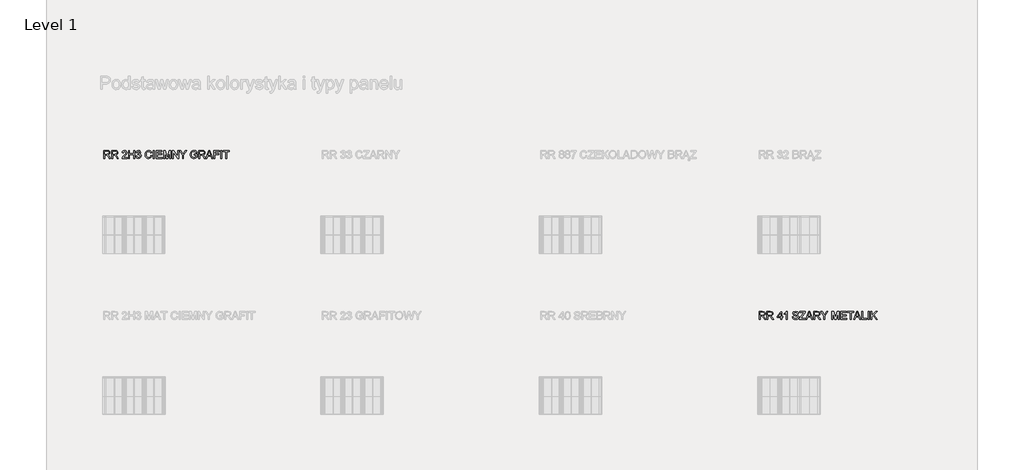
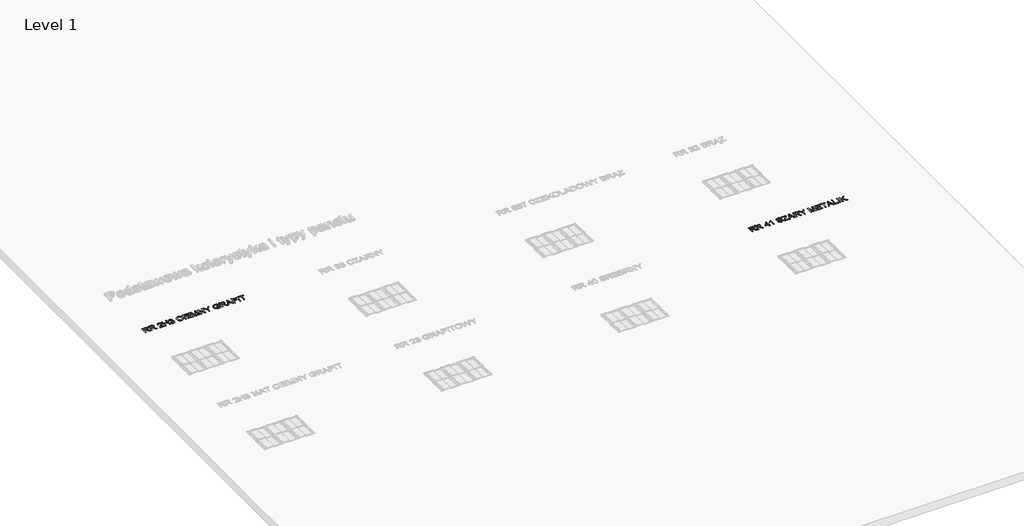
# One storey, part 7 of 10: 2 proxies.
"""IFC4 building model written with IfcOpenShell, lengths in millimetres."""

from ifc_helpers import new_model, si_unit, frame, origin, place, context, project, spatial, polyline, outline, extrude, element, save

model = new_model("IFC4")

# Units and contexts
model_context = context("Model", 3, world=origin())
ifc_project = project(units=[si_unit("LENGTHUNIT", "METRE", prefix="MILLI")], contexts=[model_context])

# Site, building, storey
site = spatial("IfcSite", under=ifc_project)
building = spatial("IfcBuilding", under=site)
storey = spatial("IfcBuildingStorey", under=building, Name="Level 1", Elevation=0.0)

# Proxies
placement = place(None, origin())
element("IfcBuildingElementProxy", 1, Name="150 Blue", ObjectType="150 Blue", at=placement, inside=storey, context=model_context, shape_type="SweptSolid", body=[
    extrude(outline(polyline([(-8736.4118342, 1464.3485888), (-8736.4118342, 1615.033054), (-8671.4806621, 1615.033054), (-8641.3327325, 1610.967958), (-8632.0529092, 1605.3393635), (-8624.8516192, 1596.583772), (-8620.2301016, 1585.7266546), (-8618.6895957, 1573.7934824), (-8621.2417771, 1558.9494439), (-8628.8983211, 1546.6437911), (-8641.8891541, 1537.6214852), (-8660.4442022, 1532.6274871), (-8649.7388361, 1524.5708714), (-8634.4717333, 1505.1834903), (-8609.3453931, 1464.3485888), (-8631.2343718, 1464.3485888), (-8650.8424821, 1495.5817702), (-8665.0059389, 1516.2567383), (-8674.9571469, 1526.0240053), (-8683.9150735, 1529.6108548), (-8694.8411687, 1530.2730423), (-8717.576276, 1530.2730423), (-8717.576276, 1464.3485888), (-8736.4118342, 1464.3485888)]), holes=[polyline([(-8717.576276, 1549.1086005), (-8675.4169994, 1549.1086005), (-8653.9142968, 1551.775745), (-8641.7006145, 1560.3106073), (-8637.5251539, 1573.0945066), (-8639.5163152, 1582.2823594), (-8645.4897991, 1589.6859846), (-8655.7675023, 1594.5696181), (-8670.6713217, 1596.1974959), (-8717.576276, 1596.1974959), (-8717.576276, 1549.1086005)])]), frame((0.0, 0.0, 600.0), z_axis=(0.0, 0.0, 1.0), x_axis=(1.0, 0.0, 0.0)), (0.0, 0.0, 1.0), 10.0),
    extrude(outline(polyline([(-8585.727369, 1464.3485888), (-8585.727369, 1615.033054), (-8520.7961968, 1615.033054), (-8490.6482673, 1610.967958), (-8481.368444, 1605.3393635), (-8474.1671539, 1596.583772), (-8469.5456364, 1585.7266546), (-8468.0051305, 1573.7934824), (-8470.5573119, 1558.9494439), (-8478.2138559, 1546.6437911), (-8491.2046888, 1537.6214852), (-8509.759737, 1532.6274871), (-8499.0543709, 1524.5708714), (-8483.7872681, 1505.1834903), (-8458.6609278, 1464.3485888), (-8480.5499066, 1464.3485888), (-8500.1580169, 1495.5817702), (-8514.3214737, 1516.2567383), (-8524.2726817, 1526.0240053), (-8533.2306083, 1529.6108548), (-8544.1567035, 1530.2730423), (-8566.8918108, 1530.2730423), (-8566.8918108, 1464.3485888), (-8585.727369, 1464.3485888)]), holes=[polyline([(-8566.8918108, 1549.1086005), (-8524.7325342, 1549.1086005), (-8503.2298316, 1551.775745), (-8491.0161493, 1560.3106073), (-8486.8406887, 1573.0945066), (-8488.83185, 1582.2823594), (-8494.8053339, 1589.6859846), (-8505.0830371, 1594.5696181), (-8519.9868564, 1596.1974959), (-8566.8918108, 1596.1974959), (-8566.8918108, 1549.1086005)])]), frame((0.0, 0.0, 600.0), z_axis=(0.0, 0.0, 1.0), x_axis=(1.0, 0.0, 0.0)), (0.0, 0.0, 1.0), 10.0),
    extrude(outline(polyline([(-8286.7128833, 1483.184147), (-8286.7128833, 1464.3485888), (-8385.5995636, 1464.3485888), (-8383.5762126, 1477.3348232), (-8372.1166885, 1497.3292097), (-8348.5170585, 1519.1630061), (-8316.0146842, 1550.5433403), (-8309.9308357, 1561.3590709), (-8307.9028862, 1571.880496), (-8309.8204711, 1581.3120707), (-8315.5732258, 1589.1525557), (-8324.4161893, 1594.4362608), (-8335.6044005, 1596.1974959), (-8347.3536317, 1594.4776476), (-8356.4817037, 1589.3181026), (-8362.3724141, 1581.1235311), (-8364.4095607, 1570.2986034), (-8383.2451188, 1572.6530482), (-8378.6787836, 1590.872404), (-8368.8057505, 1604.1805352), (-8354.1410545, 1612.3199243), (-8335.1997303, 1615.033054), (-8316.1204503, 1612.0164217), (-8301.4833454, 1602.9665246), (-8292.1713324, 1589.4468613), (-8289.0673281, 1573.0209302), (-8292.4150542, 1555.1602593), (-8303.5434846, 1536.6925832), (-8330.5276289, 1510.8856612), (-8352.1958784, 1492.7674729), (-8360.6939525, 1483.184147), (-8286.7128833, 1483.184147)])), frame((0.0, 0.0, 600.0), z_axis=(0.0, 0.0, 1.0), x_axis=(1.0, 0.0, 0.0)), (0.0, 0.0, 1.0), 10.0),
    extrude(outline(polyline([(-8260.8139908, 1464.3485888), (-8260.8139908, 1615.033054), (-8241.9784327, 1615.033054), (-8241.9784327, 1553.81749), (-8161.9273105, 1553.81749), (-8161.9273105, 1615.033054), (-8143.0917524, 1615.033054), (-8143.0917524, 1464.3485888), (-8161.9273105, 1464.3485888), (-8161.9273105, 1534.9819319), (-8241.9784327, 1534.9819319), (-8241.9784327, 1464.3485888), (-8260.8139908, 1464.3485888)])), frame((0.0, 0.0, 600.0), z_axis=(0.0, 0.0, 1.0), x_axis=(1.0, 0.0, 0.0)), (0.0, 0.0, 1.0), 10.0),
    extrude(outline(polyline([(-8117.1928599, 1504.3741499), (-8098.3573018, 1506.7285947), (-8094.1404544, 1494.8919915), (-8087.9646354, 1486.8997551), (-8079.5263421, 1482.3472154), (-8068.522072, 1480.8297022), (-8055.6094139, 1482.9174325), (-8045.6398119, 1489.1806235), (-8039.2662563, 1498.5248262), (-8037.1417378, 1509.8555916), (-8039.2478622, 1520.6115414), (-8045.5662355, 1529.3349433), (-8055.1311673, 1535.1152891), (-8066.9769676, 1537.0420711), (-8080.1839312, 1534.9819319), (-8078.0870038, 1553.81749), (-8075.0703715, 1553.5967608), (-8053.6964276, 1559.0046262), (-8046.5779109, 1565.8656254), (-8044.2050721, 1575.6328924), (-8045.9249204, 1583.767683), (-8051.0844654, 1590.3665663), (-8058.9571401, 1594.7397635), (-8068.8163776, 1596.1974959), (-8078.6940091, 1594.7259679), (-8086.7690189, 1590.311384), (-8092.6643279, 1582.9537441), (-8096.002857, 1572.6530482), (-8114.8384152, 1575.007493), (-8109.2925941, 1591.9208677), (-8099.4241596, 1604.5484172), (-8085.9228903, 1612.4118948), (-8069.4785651, 1615.033054), (-8046.7618519, 1609.864312), (-8030.8693498, 1595.7376434), (-8025.3695139, 1576.7365383), (-8030.5934383, 1559.3725082), (-8046.0444821, 1546.9013085), (-8034.2538641, 1542.1372367), (-8025.5166667, 1534.0254387), (-8020.1088014, 1523.0073729), (-8018.3061796, 1509.5244978), (-8021.9114232, 1491.1671863), (-8032.7271538, 1475.8265071), (-8049.0519174, 1465.4522348), (-8069.1842596, 1461.994144), (-8087.3944183, 1464.9463971), (-8102.2200627, 1473.8031561), (-8112.5299556, 1487.3504106), (-8117.1928599, 1504.3741499)])), frame((0.0, 0.0, 600.0), z_axis=(0.0, 0.0, 1.0), x_axis=(1.0, 0.0, 0.0)), (0.0, 0.0, 1.0), 10.0),
    extrude(outline(polyline([(-7829.9505981, 1517.9122073), (-7811.1150399, 1513.056165), (-7819.8062521, 1491.1074054), (-7833.445477, 1475.072349), (-7851.3613302, 1465.2636953), (-7872.8824269, 1461.994144), (-7894.7300189, 1464.4681505), (-7912.0802535, 1471.8901697), (-7925.3791876, 1484.0026844), (-7935.0728782, 1500.5481771), (-7940.9911798, 1519.9999376), (-7942.963947, 1540.8312556), (-7940.7336624, 1562.8030078), (-7934.0428086, 1581.7765217), (-7923.2408735, 1597.1493905), (-7908.6773451, 1608.3192076), (-7891.4052854, 1615.120426), (-7872.4777567, 1617.3874988), (-7851.8257812, 1614.4536399), (-7834.7514581, 1605.6520632), (-7821.7882163, 1591.5253945), (-7813.4694847, 1572.61626), (-7832.3050429, 1568.1280997), (-7838.8349483, 1581.8638936), (-7847.7560867, 1591.2862712), (-7859.1788226, 1596.7355233), (-7873.2135207, 1598.5519407), (-7889.3911315, 1596.5377867), (-7902.6808685, 1590.495325), (-7912.7654337, 1581.0591518), (-7919.3275288, 1568.8638636), (-7924.1283889, 1540.8680438), (-7922.7074446, 1523.4672254), (-7918.444612, 1508.4208518), (-7911.1789426, 1496.3037386), (-7900.7494881, 1487.6907014), (-7888.2460987, 1482.544952), (-7874.7586251, 1480.8297022), (-7859.0362683, 1483.1657529), (-7845.9350708, 1490.1739049), (-7836.0436436, 1501.7805818), (-7829.9505981, 1517.9122073)])), frame((0.0, 0.0, 600.0), z_axis=(0.0, 0.0, 1.0), x_axis=(1.0, 0.0, 0.0)), (0.0, 0.0, 1.0), 10.0),
    extrude(outline(polyline([(-7782.8617027, 1464.3485888), (-7782.8617027, 1615.033054), (-7764.0261446, 1615.033054), (-7764.0261446, 1464.3485888), (-7782.8617027, 1464.3485888)])), frame((0.0, 0.0, 600.0), z_axis=(0.0, 0.0, 1.0), x_axis=(1.0, 0.0, 0.0)), (0.0, 0.0, 1.0), 10.0),
    extrude(outline(polyline([(-7726.3550282, 1464.3485888), (-7726.3550282, 1615.033054), (-7618.0505689, 1615.033054), (-7618.0505689, 1596.1974959), (-7707.5194701, 1596.1974959), (-7707.5194701, 1551.4630453), (-7622.7594584, 1551.4630453), (-7622.7594584, 1532.6274871), (-7707.5194701, 1532.6274871), (-7707.5194701, 1483.184147), (-7615.6961241, 1483.184147), (-7615.6961241, 1464.3485888), (-7726.3550282, 1464.3485888)])), frame((0.0, 0.0, 600.0), z_axis=(0.0, 0.0, 1.0), x_axis=(1.0, 0.0, 0.0)), (0.0, 0.0, 1.0), 10.0),
    extrude(outline(polyline([(-7587.4427869, 1464.3485888), (-7587.4427869, 1615.033054), (-7555.1427477, 1615.033054), (-7524.2406601, 1508.825522), (-7517.9866662, 1486.6422377), (-7511.2544257, 1510.664932), (-7480.9409493, 1615.033054), (-7448.5305455, 1615.033054), (-7448.5305455, 1464.3485888), (-7467.3661036, 1464.3485888), (-7467.3661036, 1596.1974959), (-7505.2211609, 1464.3485888), (-7530.7153832, 1464.3485888), (-7568.6072287, 1596.1974959), (-7568.6072287, 1464.3485888), (-7587.4427869, 1464.3485888)])), frame((0.0, 0.0, 600.0), z_axis=(0.0, 0.0, 1.0), x_axis=(1.0, 0.0, 0.0)), (0.0, 0.0, 1.0), 10.0),
    extrude(outline(polyline([(-7415.5683187, 1464.3485888), (-7415.5683187, 1615.033054), (-7395.4083854, 1615.033054), (-7316.6816384, 1495.6553466), (-7316.6816384, 1615.033054), (-7297.8460803, 1615.033054), (-7297.8460803, 1464.3485888), (-7318.0060136, 1464.3485888), (-7396.7327606, 1583.7630844), (-7396.7327606, 1464.3485888), (-7415.5683187, 1464.3485888)])), frame((0.0, 0.0, 600.0), z_axis=(0.0, 0.0, 1.0), x_axis=(1.0, 0.0, 0.0)), (0.0, 0.0, 1.0), 10.0),
    extrude(outline(polyline([(-7222.5038477, 1464.3485888), (-7222.5038477, 1528.176115), (-7281.3649669, 1615.033054), (-7259.1816826, 1615.033054), (-7227.7645602, 1568.6431344), (-7211.688117, 1544.951534), (-7195.5380974, 1570.3353916), (-7167.0272428, 1615.033054), (-7144.8071703, 1615.033054), (-7203.6682895, 1528.176115), (-7203.6682895, 1464.3485888), (-7222.5038477, 1464.3485888)])), frame((0.0, 0.0, 600.0), z_axis=(0.0, 0.0, 1.0), x_axis=(1.0, 0.0, 0.0)), (0.0, 0.0, 1.0), 10.0),
    extrude(outline(polyline([(-6998.8315946, 1523.209708), (-6998.8315946, 1542.0452662), (-6937.6160306, 1542.0452662), (-6937.6160306, 1485.7225327), (-6967.8375365, 1467.9538324), (-6999.7880878, 1461.994144), (-7020.9183099, 1464.3623844), (-7040.0159839, 1471.4671054), (-7055.880895, 1483.0599868), (-7067.312828, 1498.8927082), (-7074.224411, 1517.8846162), (-7076.528272, 1538.9550574), (-7074.233608, 1560.17725), (-7067.3496162, 1579.9187176), (-7056.161405, 1596.4780059), (-7040.954083, 1608.1536607), (-7022.4312246, 1615.0790393), (-7001.296404, 1617.3874988), (-6971.8290561, 1612.0348158), (-6960.0798249, 1605.6336691), (-6951.1724821, 1597.135595), (-6939.7865344, 1572.2115898), (-6957.1505645, 1567.3187593), (-6965.7406091, 1584.7379717), (-6980.4191007, 1594.7811502), (-7001.5907095, 1598.5519407), (-7025.7053743, 1594.4868446), (-7042.1129113, 1583.8182667), (-7051.8066019, 1569.305322), (-7057.6927138, 1539.7276096), (-7055.9222817, 1521.7151874), (-7050.6109854, 1506.8941416), (-7041.9197733, 1495.3702381), (-7030.0095937, 1487.249243), (-7016.0714646, 1482.4345874), (-7001.296404, 1480.8297022), (-6975.5262702, 1485.6673504), (-6956.4515887, 1495.9864404), (-6956.4515887, 1523.209708), (-6998.8315946, 1523.209708)])), frame((0.0, 0.0, 600.0), z_axis=(0.0, 0.0, 1.0), x_axis=(1.0, 0.0, 0.0)), (0.0, 0.0, 1.0), 10.0),
    extrude(outline(polyline([(-6907.0082486, 1464.3485888), (-6907.0082486, 1615.033054), (-6842.0770764, 1615.033054), (-6811.9291469, 1610.967958), (-6802.6493236, 1605.3393635), (-6795.4480336, 1596.583772), (-6790.826516, 1585.7266546), (-6789.2860101, 1573.7934824), (-6791.8381915, 1558.9494439), (-6799.4947355, 1546.6437911), (-6812.4855685, 1537.6214852), (-6831.0406166, 1532.6274871), (-6820.3352505, 1524.5708714), (-6805.0681477, 1505.1834903), (-6779.9418075, 1464.3485888), (-6801.8307862, 1464.3485888), (-6821.4388965, 1495.5817702), (-6835.6023533, 1516.2567383), (-6845.5535613, 1526.0240053), (-6854.5114879, 1529.6108548), (-6865.4375831, 1530.2730423), (-6888.1726904, 1530.2730423), (-6888.1726904, 1464.3485888), (-6907.0082486, 1464.3485888)]), holes=[polyline([(-6888.1726904, 1549.1086005), (-6846.0134138, 1549.1086005), (-6824.5107112, 1551.775745), (-6812.2970289, 1560.3106073), (-6808.1215683, 1573.0945066), (-6810.1127296, 1582.2823594), (-6816.0862135, 1589.6859846), (-6826.3639167, 1594.5696181), (-6841.267736, 1596.1974959), (-6888.1726904, 1596.1974959), (-6888.1726904, 1549.1086005)])]), frame((0.0, 0.0, 600.0), z_axis=(0.0, 0.0, 1.0), x_axis=(1.0, 0.0, 0.0)), (0.0, 0.0, 1.0), 10.0),
    extrude(outline(polyline([(-6773.8349663, 1464.3485888), (-6713.6862601, 1615.033054), (-6697.6466051, 1615.033054), (-6637.5346871, 1464.3485888), (-6657.4371031, 1464.3485888), (-6674.6539804, 1511.4374842), (-6736.7524612, 1511.4374842), (-6753.9693386, 1464.3485888), (-6773.8349663, 1464.3485888)]), holes=[polyline([(-6729.8362797, 1530.2730423), (-6681.5333737, 1530.2730423), (-6695.1450076, 1567.3187593), (-6705.7032208, 1596.1974959), (-6715.0842117, 1570.5561208), (-6729.8362797, 1530.2730423)])]), frame((0.0, 0.0, 600.0), z_axis=(0.0, 0.0, 1.0), x_axis=(1.0, 0.0, 0.0)), (0.0, 0.0, 1.0), 10.0),
    extrude(outline(polyline([(-6617.411542, 1464.3485888), (-6617.411542, 1615.033054), (-6516.1704169, 1615.033054), (-6516.1704169, 1596.1974959), (-6598.5759838, 1596.1974959), (-6598.5759838, 1551.4630453), (-6527.9426408, 1551.4630453), (-6527.9426408, 1532.6274871), (-6598.5759838, 1532.6274871), (-6598.5759838, 1464.3485888), (-6617.411542, 1464.3485888)])), frame((0.0, 0.0, 600.0), z_axis=(0.0, 0.0, 1.0), x_axis=(1.0, 0.0, 0.0)), (0.0, 0.0, 1.0), 10.0),
    extrude(outline(polyline([(-6487.9170797, 1464.3485888), (-6487.9170797, 1615.033054), (-6469.0815215, 1615.033054), (-6469.0815215, 1464.3485888), (-6487.9170797, 1464.3485888)])), frame((0.0, 0.0, 600.0), z_axis=(0.0, 0.0, 1.0), x_axis=(1.0, 0.0, 0.0)), (0.0, 0.0, 1.0), 10.0),
    extrude(outline(polyline([(-6393.7392889, 1464.3485888), (-6393.7392889, 1596.1974959), (-6443.1826291, 1596.1974959), (-6443.1826291, 1615.033054), (-6325.4603906, 1615.033054), (-6325.4603906, 1596.1974959), (-6374.9037308, 1596.1974959), (-6374.9037308, 1464.3485888), (-6393.7392889, 1464.3485888)])), frame((0.0, 0.0, 600.0), z_axis=(0.0, 0.0, 1.0), x_axis=(1.0, 0.0, 0.0)), (0.0, 0.0, 1.0), 10.0),
])
element("IfcBuildingElementProxy", 2, Name="150 Blue", ObjectType="150 Blue", at=placement, inside=storey, context=model_context, shape_type="SweptSolid", body=[
    extrude(outline(polyline([(3863.5881658, -1635.6514112), (3863.5881658, -1484.966946), (3928.5193379, -1484.966946), (3958.6672675, -1489.032042), (3967.9470908, -1494.6606365), (3975.1483808, -1503.416228), (3979.7698984, -1514.2733454), (3981.3104043, -1526.2065176), (3978.7582229, -1541.0505561), (3971.1016789, -1553.3562089), (3958.1108459, -1562.3785148), (3939.5557978, -1567.3725129), (3950.2611639, -1575.4291286), (3965.5282667, -1594.8165097), (3990.6546069, -1635.6514112), (3968.7656282, -1635.6514112), (3949.1575179, -1604.4182298), (3934.9940611, -1583.7432617), (3925.0428531, -1573.9759947), (3916.0849265, -1570.3891452), (3905.1588313, -1569.7269577), (3882.423724, -1569.7269577), (3882.423724, -1635.6514112), (3863.5881658, -1635.6514112)]), holes=[polyline([(3882.423724, -1550.8913995), (3924.5830006, -1550.8913995), (3946.0857032, -1548.224255), (3958.2993855, -1539.6893927), (3962.4748461, -1526.9054934), (3960.4836848, -1517.7176406), (3954.5102009, -1510.3140154), (3944.2324977, -1505.4303819), (3929.3286783, -1503.8025041), (3882.423724, -1503.8025041), (3882.423724, -1550.8913995)])]), frame((0.0, 0.0, 600.0), z_axis=(0.0, 0.0, 1.0), x_axis=(1.0, 0.0, 0.0)), (0.0, 0.0, 1.0), 10.0),
    extrude(outline(polyline([(4014.272631, -1635.6514112), (4014.272631, -1484.966946), (4079.2038032, -1484.966946), (4109.3517327, -1489.032042), (4118.631556, -1494.6606365), (4125.8328461, -1503.416228), (4130.4543636, -1514.2733454), (4131.9948695, -1526.2065176), (4129.4426881, -1541.0505561), (4121.7861441, -1553.3562089), (4108.7953112, -1562.3785148), (4090.240263, -1567.3725129), (4100.9456291, -1575.4291286), (4116.2127319, -1594.8165097), (4141.3390722, -1635.6514112), (4119.4500934, -1635.6514112), (4099.8419831, -1604.4182298), (4085.6785263, -1583.7432617), (4075.7273183, -1573.9759947), (4066.7693917, -1570.3891452), (4055.8432965, -1569.7269577), (4033.1081892, -1569.7269577), (4033.1081892, -1635.6514112), (4014.272631, -1635.6514112)]), holes=[polyline([(4033.1081892, -1550.8913995), (4075.2674658, -1550.8913995), (4096.7701684, -1548.224255), (4108.9838507, -1539.6893927), (4113.1593113, -1526.9054934), (4111.16815, -1517.7176406), (4105.1946661, -1510.3140154), (4094.9169629, -1505.4303819), (4080.0131436, -1503.8025041), (4033.1081892, -1503.8025041), (4033.1081892, -1550.8913995)])]), frame((0.0, 0.0, 600.0), z_axis=(0.0, 0.0, 1.0), x_axis=(1.0, 0.0, 0.0)), (0.0, 0.0, 1.0), 10.0),
    extrude(outline(polyline([(4277.9704452, -1635.6514112), (4277.9704452, -1600.3347397), (4209.6915469, -1600.3347397), (4209.6915469, -1581.4991815), (4282.6793347, -1487.3213907), (4296.8060033, -1487.3213907), (4296.8060033, -1581.4991815), (4315.6415615, -1581.4991815), (4315.6415615, -1600.3347397), (4296.8060033, -1600.3347397), (4296.8060033, -1635.6514112), (4277.9704452, -1635.6514112)]), holes=[polyline([(4277.9704452, -1581.4991815), (4277.9704452, -1523.3002499), (4232.8681126, -1581.4991815), (4277.9704452, -1581.4991815)])]), frame((0.0, 0.0, 600.0), z_axis=(0.0, 0.0, 1.0), x_axis=(1.0, 0.0, 0.0)), (0.0, 0.0, 1.0), 10.0),
    extrude(outline(polyline([(4402.7560179, -1635.6514112), (4383.9204598, -1635.6514112), (4383.9204598, -1518.2234783), (4366.078183, -1530.9338013), (4346.2493435, -1540.4435508), (4346.2493435, -1522.6380623), (4373.8588872, -1505.0165147), (4390.6159121, -1484.966946), (4402.7560179, -1484.966946), (4402.7560179, -1635.6514112)])), frame((0.0, 0.0, 600.0), z_axis=(0.0, 0.0, 1.0), x_axis=(1.0, 0.0, 0.0)), (0.0, 0.0, 1.0), 10.0),
    extrude(outline(polyline([(4506.3515878, -1583.8536263), (4525.1871459, -1583.8536263), (4531.2571988, -1602.7075785), (4546.0828432, -1614.6269552), (4568.6707978, -1619.1702978), (4588.3524845, -1615.7306011), (4601.0628074, -1606.2760339), (4605.2382681, -1593.6392873), (4602.1112711, -1581.8854576), (4589.3089777, -1573.3322012), (4561.8833749, -1566.1401082), (4532.3608448, -1556.8510878), (4516.3395839, -1542.8347838), (4511.0604773, -1524.1095903), (4512.6929537, -1513.0777289), (4517.5903827, -1502.7908286), (4525.6240058, -1494.0720253), (4536.6650642, -1487.744455), (4564.5873076, -1482.6125012), (4594.3857492, -1487.9835783), (4605.8084852, -1494.6146513), (4614.251377, -1503.7657159), (4619.5948629, -1514.8665551), (4621.7193815, -1527.3469518), (4602.8838233, -1527.3469518), (4599.4257326, -1516.1081569), (4592.2152454, -1507.9963589), (4580.9488593, -1503.0851342), (4565.3230716, -1501.4480593), (4549.3294019, -1503.0667401), (4538.3573214, -1507.9227825), (4532.0113569, -1515.0688902), (4529.8960355, -1523.5577673), (4531.3951546, -1530.7958455), (4535.892512, -1536.6175781), (4566.6474468, -1547.1390031), (4599.9775555, -1556.5935704), (4610.7151113, -1563.4269785), (4618.2061084, -1571.8606732), (4622.6068968, -1581.8026841), (4624.0738262, -1593.1610407), (4622.3861676, -1604.7723162), (4617.3231916, -1615.6938129), (4609.091832, -1625.0931979), (4597.8990223, -1632.1381381), (4584.4391398, -1636.5389265), (4569.4065617, -1638.005856), (4550.9526812, -1636.4239634), (4535.7637533, -1631.6782856), (4523.6650342, -1623.7504286), (4514.4817799, -1612.6219983), (4508.5864709, -1599.0655468), (4506.3515878, -1583.8536263)])), frame((0.0, 0.0, 600.0), z_axis=(0.0, 0.0, 1.0), x_axis=(1.0, 0.0, 0.0)), (0.0, 0.0, 1.0), 10.0),
    extrude(outline(polyline([(4640.5549396, -1635.6514112), (4640.5549396, -1616.1168772), (4717.5894294, -1521.7183573), (4732.2311328, -1503.8025041), (4649.9727187, -1503.8025041), (4649.9727187, -1484.966946), (4755.9227333, -1484.966946), (4755.9227333, -1503.8025041), (4671.60418, -1607.1037684), (4663.6579289, -1616.815853), (4758.2771781, -1616.815853), (4758.2771781, -1635.6514112), (4640.5549396, -1635.6514112)])), frame((0.0, 0.0, 600.0), z_axis=(0.0, 0.0, 1.0), x_axis=(1.0, 0.0, 0.0)), (0.0, 0.0, 1.0), 10.0),
    extrude(outline(polyline([(4761.955998, -1635.6514112), (4822.1047042, -1484.966946), (4838.1443592, -1484.966946), (4898.2562772, -1635.6514112), (4878.3538613, -1635.6514112), (4861.1369839, -1588.5625158), (4799.0385031, -1588.5625158), (4781.8216258, -1635.6514112), (4761.955998, -1635.6514112)]), holes=[polyline([(4805.9546846, -1569.7269577), (4854.2575906, -1569.7269577), (4840.6459568, -1532.6812407), (4830.0877435, -1503.8025041), (4820.7067526, -1529.4438792), (4805.9546846, -1569.7269577)])]), frame((0.0, 0.0, 600.0), z_axis=(0.0, 0.0, 1.0), x_axis=(1.0, 0.0, 0.0)), (0.0, 0.0, 1.0), 10.0),
    extrude(outline(polyline([(4918.3794224, -1635.6514112), (4918.3794224, -1484.966946), (4983.3105945, -1484.966946), (5013.458524, -1489.032042), (5022.7383474, -1494.6606365), (5029.9396374, -1503.416228), (5034.561155, -1514.2733454), (5036.1016608, -1526.2065176), (5033.5494795, -1541.0505561), (5025.8929355, -1553.3562089), (5012.9021025, -1562.3785148), (4994.3470544, -1567.3725129), (5005.0524204, -1575.4291286), (5020.3195232, -1594.8165097), (5045.4458635, -1635.6514112), (5023.5568848, -1635.6514112), (5003.9487744, -1604.4182298), (4989.7853176, -1583.7432617), (4979.8341097, -1573.9759947), (4970.8761831, -1570.3891452), (4959.9500878, -1569.7269577), (4937.2149805, -1569.7269577), (4937.2149805, -1635.6514112), (4918.3794224, -1635.6514112)]), holes=[polyline([(4937.2149805, -1550.8913995), (4979.3742572, -1550.8913995), (5000.8769598, -1548.224255), (5013.090642, -1539.6893927), (5017.2661027, -1526.9054934), (5015.2749414, -1517.7176406), (5009.3014575, -1510.3140154), (4999.0237542, -1505.4303819), (4984.1199349, -1503.8025041), (4937.2149805, -1503.8025041), (4937.2149805, -1550.8913995)])]), frame((0.0, 0.0, 600.0), z_axis=(0.0, 0.0, 1.0), x_axis=(1.0, 0.0, 0.0)), (0.0, 0.0, 1.0), 10.0),
    extrude(outline(polyline([(5111.4438934, -1635.6514112), (5111.4438934, -1571.823885), (5052.5827742, -1484.966946), (5074.7660585, -1484.966946), (5106.1831809, -1531.3568656), (5122.2596241, -1555.048466), (5138.4096437, -1529.6646084), (5166.9204983, -1484.966946), (5189.1405708, -1484.966946), (5130.2794516, -1571.823885), (5130.2794516, -1635.6514112), (5111.4438934, -1635.6514112)])), frame((0.0, 0.0, 600.0), z_axis=(0.0, 0.0, 1.0), x_axis=(1.0, 0.0, 0.0)), (0.0, 0.0, 1.0), 10.0),
    extrude(outline(polyline([(5264.4828034, -1635.6514112), (5264.4828034, -1484.966946), (5296.7828426, -1484.966946), (5327.6849302, -1591.174478), (5333.9389241, -1613.3577623), (5340.6711646, -1589.335068), (5370.984641, -1484.966946), (5403.3950448, -1484.966946), (5403.3950448, -1635.6514112), (5384.5594867, -1635.6514112), (5384.5594867, -1503.8025041), (5346.7044294, -1635.6514112), (5321.2102071, -1635.6514112), (5283.3183616, -1503.8025041), (5283.3183616, -1635.6514112), (5264.4828034, -1635.6514112)])), frame((0.0, 0.0, 600.0), z_axis=(0.0, 0.0, 1.0), x_axis=(1.0, 0.0, 0.0)), (0.0, 0.0, 1.0), 10.0),
    extrude(outline(polyline([(5436.3572716, -1635.6514112), (5436.3572716, -1484.966946), (5544.661731, -1484.966946), (5544.661731, -1503.8025041), (5455.1928297, -1503.8025041), (5455.1928297, -1548.5369547), (5539.9528414, -1548.5369547), (5539.9528414, -1567.3725129), (5455.1928297, -1567.3725129), (5455.1928297, -1616.815853), (5547.0161757, -1616.815853), (5547.0161757, -1635.6514112), (5436.3572716, -1635.6514112)])), frame((0.0, 0.0, 600.0), z_axis=(0.0, 0.0, 1.0), x_axis=(1.0, 0.0, 0.0)), (0.0, 0.0, 1.0), 10.0),
    extrude(outline(polyline([(5612.9406293, -1635.6514112), (5612.9406293, -1503.8025041), (5563.4972891, -1503.8025041), (5563.4972891, -1484.966946), (5681.2195276, -1484.966946), (5681.2195276, -1503.8025041), (5631.7761874, -1503.8025041), (5631.7761874, -1635.6514112), (5612.9406293, -1635.6514112)])), frame((0.0, 0.0, 600.0), z_axis=(0.0, 0.0, 1.0), x_axis=(1.0, 0.0, 0.0)), (0.0, 0.0, 1.0), 10.0),
    extrude(outline(polyline([(5684.8983475, -1635.6514112), (5745.0470537, -1484.966946), (5761.0867087, -1484.966946), (5821.1986267, -1635.6514112), (5801.2962108, -1635.6514112), (5784.0793334, -1588.5625158), (5721.9808526, -1588.5625158), (5704.7639753, -1635.6514112), (5684.8983475, -1635.6514112)]), holes=[polyline([(5728.8970341, -1569.7269577), (5777.1999401, -1569.7269577), (5763.5883063, -1532.6812407), (5753.030093, -1503.8025041), (5743.6491021, -1529.4438792), (5728.8970341, -1569.7269577)])]), frame((0.0, 0.0, 600.0), z_axis=(0.0, 0.0, 1.0), x_axis=(1.0, 0.0, 0.0)), (0.0, 0.0, 1.0), 10.0),
    extrude(outline(polyline([(5841.3217719, -1635.6514112), (5841.3217719, -1484.966946), (5860.15733, -1484.966946), (5860.15733, -1616.815853), (5935.4995626, -1616.815853), (5935.4995626, -1635.6514112), (5841.3217719, -1635.6514112)])), frame((0.0, 0.0, 600.0), z_axis=(0.0, 0.0, 1.0), x_axis=(1.0, 0.0, 0.0)), (0.0, 0.0, 1.0), 10.0),
    extrude(outline(polyline([(5959.0440103, -1635.6514112), (5959.0440103, -1484.966946), (5977.8795685, -1484.966946), (5977.8795685, -1635.6514112), (5959.0440103, -1635.6514112)])), frame((0.0, 0.0, 600.0), z_axis=(0.0, 0.0, 1.0), x_axis=(1.0, 0.0, 0.0)), (0.0, 0.0, 1.0), 10.0),
    extrude(outline(polyline([(6015.5506848, -1635.6514112), (6015.5506848, -1484.966946), (6034.3862429, -1484.966946), (6034.3862429, -1558.727286), (6111.6414619, -1484.966946), (6137.9818128, -1484.966946), (6073.0874288, -1546.918274), (6140.3362575, -1635.6514112), (6117.3068446, -1635.6514112), (6059.7333124, -1559.646991), (6034.3862429, -1583.8536263), (6034.3862429, -1635.6514112), (6015.5506848, -1635.6514112)])), frame((0.0, 0.0, 600.0), z_axis=(0.0, 0.0, 1.0), x_axis=(1.0, 0.0, 0.0)), (0.0, 0.0, 1.0), 10.0),
])

save(model, "model.ifc")
